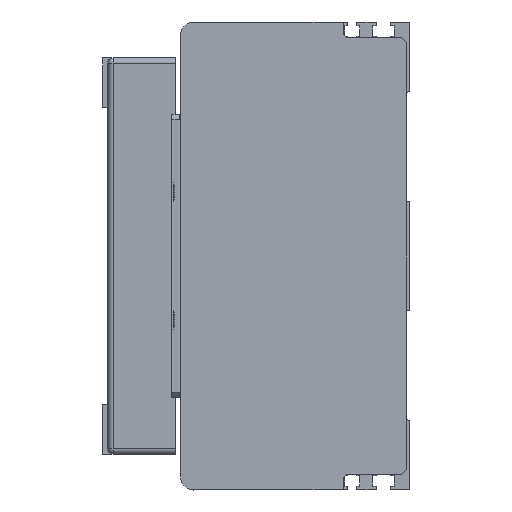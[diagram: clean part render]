
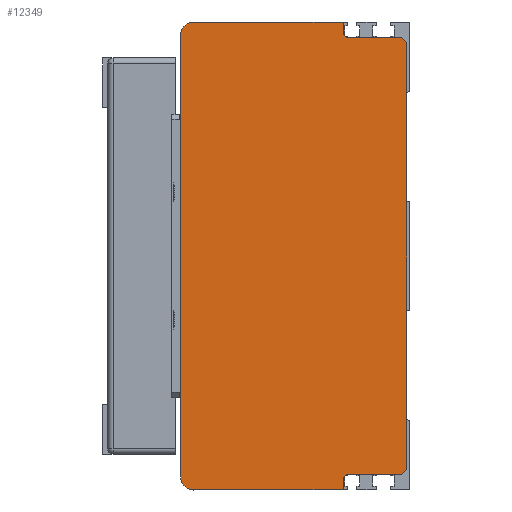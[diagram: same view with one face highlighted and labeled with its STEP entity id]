
A CAD part, left-side view. The second image highlights one B-rep face of the part: STEP entity #12349.
In plain terms, the highlighted planar face has unit normal (-1, 0, 0) as drawn and (0, 0, -1) by its records, which use the part's own axes.
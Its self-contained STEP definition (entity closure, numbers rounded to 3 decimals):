
#921=CIRCLE('',#13184,2.);
#922=CIRCLE('',#13185,5.);
#923=CIRCLE('',#13186,5.);
#924=CIRCLE('',#13187,2.);
#1220=FACE_OUTER_BOUND('',#1970,.T.);
#1970=EDGE_LOOP('',(#8370,#8371,#8372,#8373,#8374,#8375,#8376,#8377,#8378,
#8379,#8380,#8381,#8382,#8383));
#2853=LINE('',#17328,#4026);
#2854=LINE('',#17330,#4027);
#2855=LINE('',#17334,#4028);
#2856=LINE('',#17336,#4029);
#2857=LINE('',#17340,#4030);
#2858=LINE('',#17344,#4031);
#2859=LINE('',#17346,#4032);
#2860=LINE('',#17350,#4033);
#2861=LINE('',#17352,#4034);
#2862=LINE('',#17353,#4035);
#4026=VECTOR('',#14265,2.828);
#4027=VECTOR('',#14266,20.5);
#4028=VECTOR('',#14269,4.);
#4029=VECTOR('',#14270,57.5);
#4030=VECTOR('',#14273,170.);
#4031=VECTOR('',#14276,57.5);
#4032=VECTOR('',#14277,4.);
#4033=VECTOR('',#14280,20.5);
#4034=VECTOR('',#14281,2.828);
#4035=VECTOR('',#14282,164.);
#5223=VERTEX_POINT('',#17326);
#5224=VERTEX_POINT('',#17327);
#5225=VERTEX_POINT('',#17329);
#5226=VERTEX_POINT('',#17331);
#5227=VERTEX_POINT('',#17333);
#5228=VERTEX_POINT('',#17335);
#5229=VERTEX_POINT('',#17337);
#5230=VERTEX_POINT('',#17339);
#5231=VERTEX_POINT('',#17341);
#5232=VERTEX_POINT('',#17343);
#5233=VERTEX_POINT('',#17345);
#5234=VERTEX_POINT('',#17347);
#5235=VERTEX_POINT('',#17349);
#5236=VERTEX_POINT('',#17351);
#6485=EDGE_CURVE('',#5223,#5224,#2853,.T.);
#6486=EDGE_CURVE('',#5223,#5225,#2854,.T.);
#6487=EDGE_CURVE('',#5226,#5225,#921,.T.);
#6488=EDGE_CURVE('',#5226,#5227,#2855,.T.);
#6489=EDGE_CURVE('',#5227,#5228,#2856,.T.);
#6490=EDGE_CURVE('',#5228,#5229,#922,.T.);
#6491=EDGE_CURVE('',#5229,#5230,#2857,.T.);
#6492=EDGE_CURVE('',#5230,#5231,#923,.T.);
#6493=EDGE_CURVE('',#5231,#5232,#2858,.T.);
#6494=EDGE_CURVE('',#5232,#5233,#2859,.T.);
#6495=EDGE_CURVE('',#5234,#5233,#924,.T.);
#6496=EDGE_CURVE('',#5234,#5235,#2860,.T.);
#6497=EDGE_CURVE('',#5236,#5235,#2861,.T.);
#6498=EDGE_CURVE('',#5236,#5224,#2862,.T.);
#8370=ORIENTED_EDGE('',*,*,#6485,.F.);
#8371=ORIENTED_EDGE('',*,*,#6486,.T.);
#8372=ORIENTED_EDGE('',*,*,#6487,.F.);
#8373=ORIENTED_EDGE('',*,*,#6488,.T.);
#8374=ORIENTED_EDGE('',*,*,#6489,.T.);
#8375=ORIENTED_EDGE('',*,*,#6490,.T.);
#8376=ORIENTED_EDGE('',*,*,#6491,.T.);
#8377=ORIENTED_EDGE('',*,*,#6492,.T.);
#8378=ORIENTED_EDGE('',*,*,#6493,.T.);
#8379=ORIENTED_EDGE('',*,*,#6494,.T.);
#8380=ORIENTED_EDGE('',*,*,#6495,.F.);
#8381=ORIENTED_EDGE('',*,*,#6496,.T.);
#8382=ORIENTED_EDGE('',*,*,#6497,.F.);
#8383=ORIENTED_EDGE('',*,*,#6498,.T.);
#11912=PLANE('',#13183);
#12349=ADVANCED_FACE('',(#1220),#11912,.T.);
#13183=AXIS2_PLACEMENT_3D('',#17325,#14263,#14264);
#13184=AXIS2_PLACEMENT_3D('',#17332,#14267,#14268);
#13185=AXIS2_PLACEMENT_3D('',#17338,#14271,#14272);
#13186=AXIS2_PLACEMENT_3D('',#17342,#14274,#14275);
#13187=AXIS2_PLACEMENT_3D('',#17348,#14278,#14279);
#14263=DIRECTION('center_axis',(0.,0.,
-1.));
#14264=DIRECTION('ref_axis',(0.,-1.,0.));
#14265=DIRECTION('',(0.707,-0.707,0.));
#14266=DIRECTION('',(0.,1.,0.));
#14267=DIRECTION('center_axis',(0.,0.,
-1.));
#14268=DIRECTION('ref_axis',(0.707,0.707,0.));
#14269=DIRECTION('',(-1.,0.,0.));
#14270=DIRECTION('',(0.,1.,0.));
#14271=DIRECTION('center_axis',(0.,0.,
-1.));
#14272=DIRECTION('ref_axis',(-1.,0.,0.));
#14273=DIRECTION('',(1.,0.,0.));
#14274=DIRECTION('center_axis',(0.,0.,
-1.));
#14275=DIRECTION('ref_axis',(0.,1.,0.));
#14276=DIRECTION('',(0.,-1.,0.));
#14277=DIRECTION('',(-1.,0.,0.));
#14278=DIRECTION('center_axis',(0.,0.,
-1.));
#14279=DIRECTION('ref_axis',(-0.707,0.707,0.));
#14280=DIRECTION('',(0.,-1.,0.));
#14281=DIRECTION('',(0.707,0.707,0.));
#14282=DIRECTION('',(-1.,0.,0.));
#17325=CARTESIAN_POINT('Origin',(317.669,46.746,-606.483));
#17326=CARTESIAN_POINT('',(-91.,-80.,-606.483));
#17327=CARTESIAN_POINT('',(-89.,-82.,-606.483));
#17328=CARTESIAN_POINT('',(-20.019,-150.981,-606.483));
#17329=CARTESIAN_POINT('',(-91.,-59.5,-606.483));
#17330=CARTESIAN_POINT('',(-91.,-17.627,-606.483));
#17331=CARTESIAN_POINT('',(-93.,-57.5,-606.483));
#17332=CARTESIAN_POINT('Origin',(-93.,-59.5,-606.483));
#17333=CARTESIAN_POINT('',(-97.,-57.5,-606.483));
#17334=CARTESIAN_POINT('',(-91.,-57.5,-606.483));
#17335=CARTESIAN_POINT('',(-97.,0.,-606.483));
#17336=CARTESIAN_POINT('',(-97.,-57.5,-606.483));
#17337=CARTESIAN_POINT('',(-92.,5.,-606.483));
#17338=CARTESIAN_POINT('Origin',(-92.,0.,
-606.483));
#17339=CARTESIAN_POINT('',(78.,5.,-606.483));
#17340=CARTESIAN_POINT('',(-92.,5.,-606.483));
#17341=CARTESIAN_POINT('',(83.,0.,-606.483));
#17342=CARTESIAN_POINT('Origin',(78.,0.,
-606.483));
#17343=CARTESIAN_POINT('',(83.,-57.5,-606.483));
#17344=CARTESIAN_POINT('',(83.,0.,-606.483));
#17345=CARTESIAN_POINT('',(79.,-57.5,-606.483));
#17346=CARTESIAN_POINT('',(83.,-57.5,-606.483));
#17347=CARTESIAN_POINT('',(77.,-59.5,-606.483));
#17348=CARTESIAN_POINT('Origin',(79.,-59.5,-606.483));
#17349=CARTESIAN_POINT('',(77.,-80.,-606.483));
#17350=CARTESIAN_POINT('',(77.,-57.5,-606.483));
#17351=CARTESIAN_POINT('',(75.,-82.,-606.483));
#17352=CARTESIAN_POINT('',(168.354,11.354,-606.483));
#17353=CARTESIAN_POINT('',(81.,-82.,-606.483));
